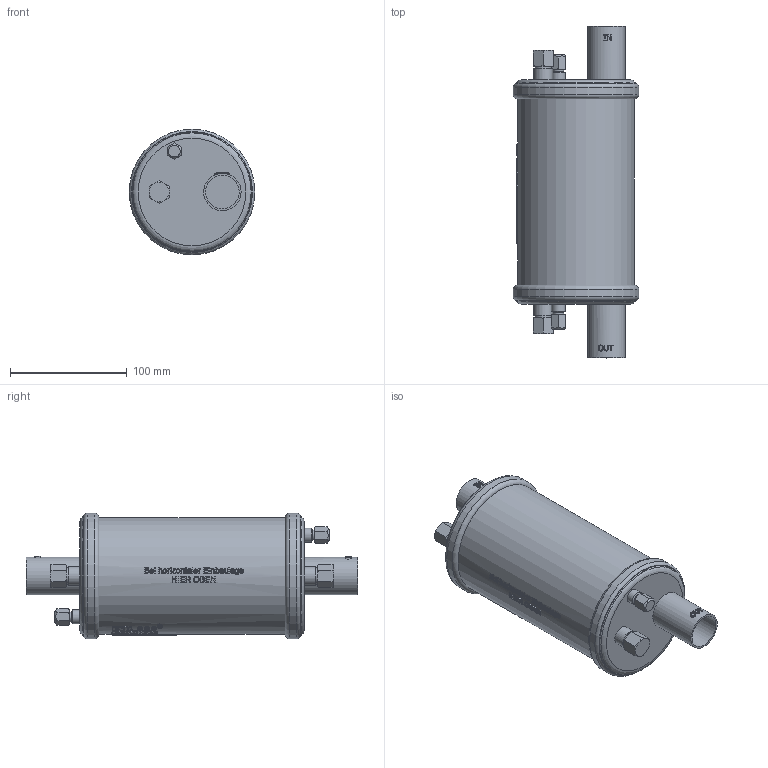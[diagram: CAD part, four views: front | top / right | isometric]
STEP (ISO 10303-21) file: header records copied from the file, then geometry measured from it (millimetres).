
FILE_DESCRIPTION(/* description */ (''),/* implementation_level */ '2;1');
FILE_NAME(/* name */ 'P:\GD\GDX-28\GDX-28.stp',/* time_stamp */ '2017-10-05T08:32:14+02:00',/* author */ ('neufeld'),/* organization */ (''),/* preprocessor_version */ 'ST-DEVELOPER v16.1',/* originating_system */ 'Autodesk Inventor 2016',/* authorisation */ '');
FILE_SCHEMA (('AUTOMOTIVE_DESIGN { 1 0 10303 214 3 1 1 }'));
Products named in the file (2): GDX-28; GDX-28_1
Assembly tree (1 placements, depth 2):
  GDX-28_1
    GDX-28
Bounding box: 107.5 x 284 x 107.5 mm (x, y, z)
Volume: 1598473.2 mm3; surface area: 98631 mm2
Topology: 1 solids, 1 shells, 1778 faces, 4787 edges, 3178 vertices
Faces by surface type: plane 889, bspline 669, cylinder 170, cone 40, torus 10
Full cylindrical faces by diameter (mm): 8.9 x2, 12 x2, 13.8 x2, 14.5 x2, 16 x2, 28.7 x2, 32 x2, 100 x1, 107.5 x2
Entity records: 69028 total; most frequent: CARTESIAN_POINT 28300, ORIENTED_EDGE 9456, DIRECTION 6724, EDGE_CURVE 4728, VERTEX_POINT 3162, AXIS2_PLACEMENT_3D 2294, LINE 2136, VECTOR 2136
